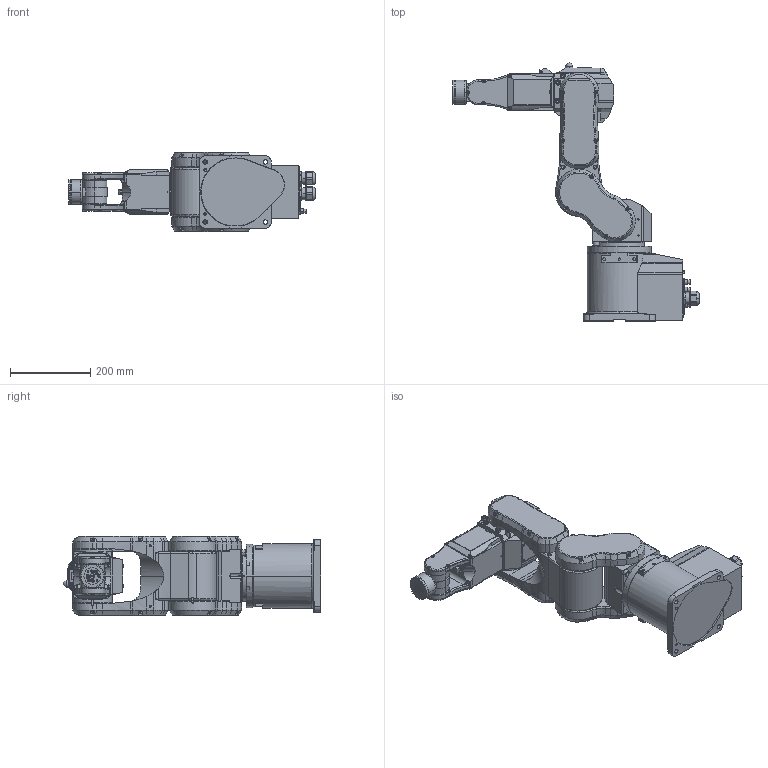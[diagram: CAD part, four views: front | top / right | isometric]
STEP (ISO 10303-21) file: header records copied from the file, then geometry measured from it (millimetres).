
FILE_DESCRIPTION( ( '' ), '1' );
FILE_NAME( '//expscmdclustefs.cadenas.external/client_exchange/iodir/jobs/output/wkb51540405_no0/STEP/C3_A601S_without_Plate__2_14b.stp', '2012-11-23T10:43:04', ( '' ), ( '' ), ' ', ' ', ' ' );
FILE_SCHEMA( ( 'automotive_design' ) );
Length unit declared in the file: millimetre
Products named in the file (7): 1; 2; 3; 4; 5; 6; 7
Bounding box: 614.5 x 643.24 x 198 mm (x, y, z)
Volume: 16204862.2 mm3; surface area: 892506 mm2
Topology: 7 solids, 7 shells, 2399 faces, 5995 edges, 3826 vertices
Faces by surface type: plane 1138, cylinder 853, cone 274, torus 132, sphere 2
Entity records: 142659 total; most frequent: CARTESIAN_POINT 16141, DIRECTION 12637, STYLED_ITEM 12166, PRESENTATION_STYLE_ASSIGNMENT 12166, COLOUR_RGB 12166, ORIENTED_EDGE 11868, EDGE_CURVE 5934, CURVE_STYLE 5934
